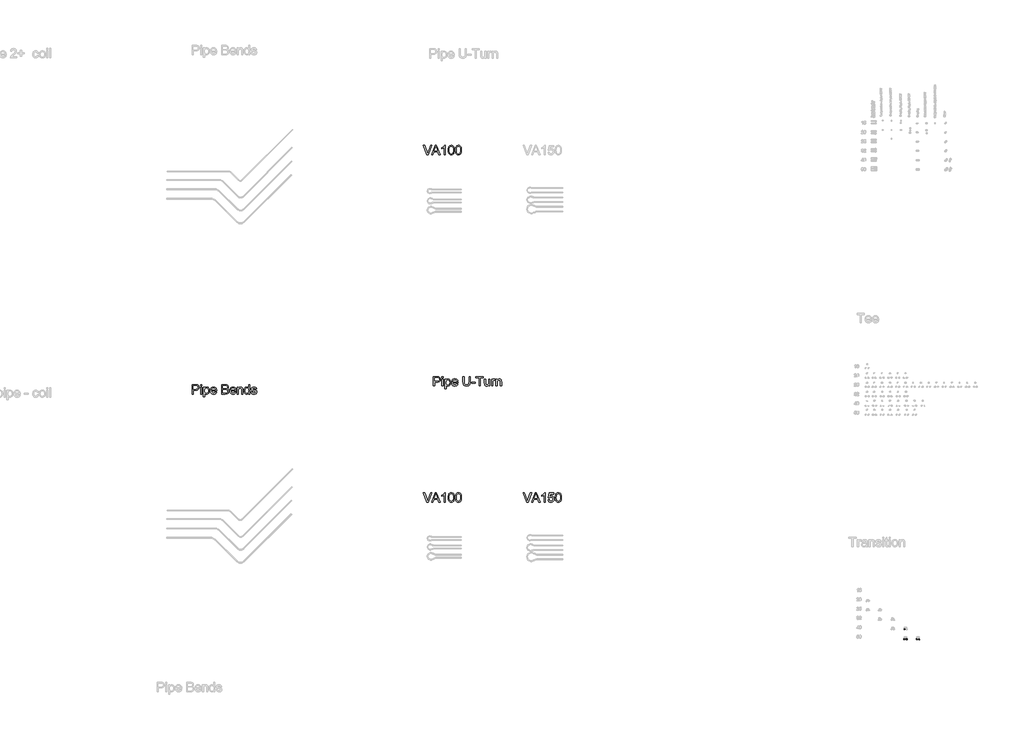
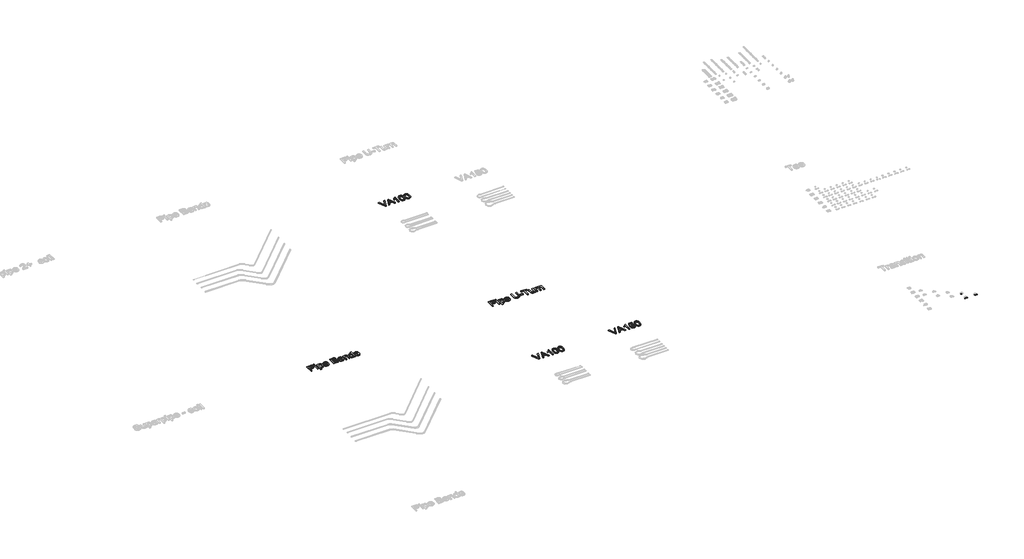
# One storey, part 14 of 26: 10 proxies.
"""IFC4 building model written with IfcOpenShell, lengths in millimetres."""

from ifc_helpers import new_model, si_unit, origin, origin_with_axes, place, context, project, spatial, polyline, outline, extrude, element, save

model = new_model("IFC4")

# Units and contexts
model_context = context("Model", 3, world=origin())
ifc_project = project(units=[si_unit("LENGTHUNIT", "METRE", prefix="MILLI")], contexts=[model_context])

# Site, building, storey
site = spatial("IfcSite", under=ifc_project)
building = spatial("IfcBuilding", under=site)
storey = spatial("IfcBuildingStorey", under=building, Name="Superpipe UFH", Elevation=0.0)

# Proxies
placement = place(None, origin())
element("IfcBuildingElementProxy", 1, Name="300mm Arial", ObjectType="300mm Arial", at=placement, inside=storey, context=model_context, shape_type="SweptSolid", body=[
    extrude(outline(polyline([(11391.0010231, 31190.4014488), (11271.0714926, 31491.7703793), (11311.3913593, 31491.7703793), (11391.6632106, 31274.6464257), (11407.9235948, 31225.7181204), (11423.9632498, 31274.6464257), (11504.4558304, 31491.7703793), (11544.775697, 31491.7703793), (11429.9229381, 31190.4014488), (11391.0010231, 31190.4014488)])), origin_with_axes(), (0.0, 0.0, 1.0), 30.0),
    extrude(outline(polyline([(11544.7021206, 31190.4014488), (11664.9995331, 31491.7703793), (11697.078843, 31491.7703793), (11817.3762555, 31190.4014488), (11777.5714236, 31190.4014488), (11743.0640924, 31284.5792396), (11618.9407073, 31284.5792396), (11584.5069525, 31190.4014488), (11544.7021206, 31190.4014488)]), holes=[polyline([(11632.7730703, 31322.2503559), (11729.3053058, 31322.2503559), (11702.1556146, 31396.3417897), (11681.0391881, 31454.099263), (11662.2772063, 31402.8165128), (11632.7730703, 31322.2503559)])]), origin_with_axes(), (0.0, 0.0, 1.0), 30.0),
    extrude(outline(polyline([(11984.7625633, 31190.4014488), (11947.091447, 31190.4014488), (11947.091447, 31425.2573145), (11911.4068934, 31399.8366687), (11871.7492144, 31380.8171695), (11871.7492144, 31416.4281467), (11901.3361238, 31432.522984), (11926.9683018, 31451.6712418), (11947.1742204, 31472.0335102), (11960.4823516, 31491.7703793), (11984.7625633, 31491.7703793), (11984.7625633, 31190.4014488)])), origin_with_axes(), (0.0, 0.0, 1.0), 30.0),
    extrude(outline(polyline([(12074.2314645, 31338.6578929), (12076.9997765, 31386.8964195), (12085.3047126, 31425.3676791), (12099.0634992, 31454.660283), (12118.1933629, 31475.3628423), (12142.8322595, 31487.668495), (12173.1181448, 31491.7703793), (12196.3314987, 31489.3423581), (12217.1168314, 31482.0582946), (12234.4992557, 31470.2032973), (12247.5038842, 31454.0624748), (12257.3263335, 31433.7737827), (12265.16222, 31409.475177), (12270.2941738, 31378.6190746), (12272.0048251, 31338.6578929), (12269.2641042, 31290.6952778), (12261.0419416, 31252.3159886), (12247.3659285, 31222.9957936), (12228.2636559, 31202.2104609), (12203.569577, 31189.8220347), (12173.1181448, 31185.6925593), (12152.3696003, 31187.485984), (12133.9755005, 31192.8662582), (12117.9358455, 31201.8333818), (12104.2506353, 31214.3873549), (12091.1172481, 31237.0810755), (12081.7362572, 31265.3574053), (12076.1076627, 31299.2163445), (12074.2314645, 31338.6578929)]), holes=[polyline([(12111.9025808, 31338.7314693), (12116.3171647, 31279.4748769), (12121.8353947, 31259.2068782), (12129.5609166, 31245.1790779), (12149.2793915, 31228.8175262), (12173.1181448, 31223.3636756), (12196.9568981, 31228.8359203), (12216.675373, 31245.2526543), (12224.4008949, 31259.3034473), (12229.9191249, 31279.5668474), (12234.3337088, 31338.7314693), (12230.0662777, 31396.6544894), (12224.7319887, 31416.8558095), (12217.2639842, 31431.2170029), (12197.5822975, 31448.3786979), (12172.6766864, 31454.099263), (12149.0954505, 31449.0592796), (12130.1495278, 31433.9393296), (12122.1664885, 31418.3043448), (12116.4643175, 31397.2247065), (12111.9025808, 31338.7314693)])]), origin_with_axes(), (0.0, 0.0, 1.0), 30.0),
    extrude(outline(polyline([(12304.9670519, 31338.6578929), (12307.7353639, 31386.8964195), (12316.0402999, 31425.3676791), (12329.7990865, 31454.660283), (12348.9289503, 31475.3628423), (12373.5678469, 31487.668495), (12403.8537322, 31491.7703793), (12427.0670861, 31489.3423581), (12447.8524188, 31482.0582946), (12465.2348431, 31470.2032973), (12478.2394716, 31454.0624748), (12488.0619209, 31433.7737827), (12495.8978074, 31409.475177), (12501.0297612, 31378.6190746), (12502.7404125, 31338.6578929), (12499.9996916, 31290.6952778), (12491.777529, 31252.3159886), (12478.1015159, 31222.9957936), (12458.9992433, 31202.2104609), (12434.3051643, 31189.8220347), (12403.8537322, 31185.6925593), (12383.1051876, 31187.485984), (12364.7110879, 31192.8662582), (12348.6714329, 31201.8333818), (12334.9862227, 31214.3873549), (12321.8528355, 31237.0810755), (12312.4718446, 31265.3574053), (12306.84325, 31299.2163445), (12304.9670519, 31338.6578929)]), holes=[polyline([(12342.6381682, 31338.7314693), (12347.0527521, 31279.4748769), (12352.570982, 31259.2068782), (12360.2965039, 31245.1790779), (12380.0149789, 31228.8175262), (12403.8537322, 31223.3636756), (12427.6924855, 31228.8359203), (12447.4109604, 31245.2526543), (12455.1364823, 31259.3034473), (12460.6547122, 31279.5668474), (12465.0692962, 31338.7314693), (12460.801865, 31396.6544894), (12455.4675761, 31416.8558095), (12447.9995716, 31431.2170029), (12428.3178849, 31448.3786979), (12403.4122738, 31454.099263), (12379.8310379, 31449.0592796), (12360.8851151, 31433.9393296), (12352.9020758, 31418.3043448), (12347.1999049, 31397.2247065), (12342.6381682, 31338.7314693)])]), origin_with_axes(), (0.0, 0.0, 1.0), 30.0),
])
element("IfcBuildingElementProxy", 2, Name="300mm Arial", ObjectType="300mm Arial", at=placement, inside=storey, context=model_context, shape_type="SweptSolid", body=[
    extrude(outline(polyline([(11391.0010231, 19990.4014488), (11271.0714926, 20291.7703793), (11311.3913593, 20291.7703793), (11391.6632106, 20074.6464257), (11407.9235948, 20025.7181204), (11423.9632498, 20074.6464257), (11504.4558304, 20291.7703793), (11544.775697, 20291.7703793), (11429.9229381, 19990.4014488), (11391.0010231, 19990.4014488)])), origin_with_axes(), (0.0, 0.0, 1.0), 30.0),
    extrude(outline(polyline([(11544.7021206, 19990.4014488), (11664.9995331, 20291.7703793), (11697.078843, 20291.7703793), (11817.3762555, 19990.4014488), (11777.5714236, 19990.4014488), (11743.0640924, 20084.5792396), (11618.9407073, 20084.5792396), (11584.5069525, 19990.4014488), (11544.7021206, 19990.4014488)]), holes=[polyline([(11632.7730703, 20122.2503559), (11729.3053058, 20122.2503559), (11702.1556146, 20196.3417897), (11681.0391881, 20254.099263), (11662.2772063, 20202.8165128), (11632.7730703, 20122.2503559)])]), origin_with_axes(), (0.0, 0.0, 1.0), 30.0),
    extrude(outline(polyline([(11984.7625633, 19990.4014488), (11947.091447, 19990.4014488), (11947.091447, 20225.2573145), (11911.4068934, 20199.8366687), (11871.7492144, 20180.8171695), (11871.7492144, 20216.4281467), (11901.3361238, 20232.522984), (11926.9683018, 20251.6712418), (11947.1742204, 20272.0335102), (11960.4823516, 20291.7703793), (11984.7625633, 20291.7703793), (11984.7625633, 19990.4014488)])), origin_with_axes(), (0.0, 0.0, 1.0), 30.0),
    extrude(outline(polyline([(12074.2314645, 20138.6578929), (12076.9997765, 20186.8964195), (12085.3047126, 20225.3676791), (12099.0634992, 20254.660283), (12118.1933629, 20275.3628423), (12142.8322595, 20287.668495), (12173.1181448, 20291.7703793), (12196.3314987, 20289.3423581), (12217.1168314, 20282.0582946), (12234.4992557, 20270.2032973), (12247.5038842, 20254.0624748), (12257.3263335, 20233.7737827), (12265.16222, 20209.475177), (12270.2941738, 20178.6190746), (12272.0048251, 20138.6578929), (12269.2641042, 20090.6952778), (12261.0419416, 20052.3159886), (12247.3659285, 20022.9957936), (12228.2636559, 20002.2104609), (12203.569577, 19989.8220347), (12173.1181448, 19985.6925593), (12152.3696003, 19987.485984), (12133.9755005, 19992.8662582), (12117.9358455, 20001.8333818), (12104.2506353, 20014.3873549), (12091.1172481, 20037.0810755), (12081.7362572, 20065.3574053), (12076.1076627, 20099.2163445), (12074.2314645, 20138.6578929)]), holes=[polyline([(12111.9025808, 20138.7314693), (12116.3171647, 20079.4748769), (12121.8353947, 20059.2068782), (12129.5609166, 20045.1790779), (12149.2793915, 20028.8175262), (12173.1181448, 20023.3636756), (12196.9568981, 20028.8359203), (12216.675373, 20045.2526543), (12224.4008949, 20059.3034473), (12229.9191249, 20079.5668474), (12234.3337088, 20138.7314693), (12230.0662777, 20196.6544894), (12224.7319887, 20216.8558095), (12217.2639842, 20231.2170029), (12197.5822975, 20248.3786979), (12172.6766864, 20254.099263), (12149.0954505, 20249.0592796), (12130.1495278, 20233.9393296), (12122.1664885, 20218.3043448), (12116.4643175, 20197.2247065), (12111.9025808, 20138.7314693)])]), origin_with_axes(), (0.0, 0.0, 1.0), 30.0),
    extrude(outline(polyline([(12304.9670519, 20138.6578929), (12307.7353639, 20186.8964195), (12316.0402999, 20225.3676791), (12329.7990865, 20254.660283), (12348.9289503, 20275.3628423), (12373.5678469, 20287.668495), (12403.8537322, 20291.7703793), (12427.0670861, 20289.3423581), (12447.8524188, 20282.0582946), (12465.2348431, 20270.2032973), (12478.2394716, 20254.0624748), (12488.0619209, 20233.7737827), (12495.8978074, 20209.475177), (12501.0297612, 20178.6190746), (12502.7404125, 20138.6578929), (12499.9996916, 20090.6952778), (12491.777529, 20052.3159886), (12478.1015159, 20022.9957936), (12458.9992433, 20002.2104609), (12434.3051643, 19989.8220347), (12403.8537322, 19985.6925593), (12383.1051876, 19987.485984), (12364.7110879, 19992.8662582), (12348.6714329, 20001.8333818), (12334.9862227, 20014.3873549), (12321.8528355, 20037.0810755), (12312.4718446, 20065.3574053), (12306.84325, 20099.2163445), (12304.9670519, 20138.6578929)]), holes=[polyline([(12342.6381682, 20138.7314693), (12347.0527521, 20079.4748769), (12352.570982, 20059.2068782), (12360.2965039, 20045.1790779), (12380.0149789, 20028.8175262), (12403.8537322, 20023.3636756), (12427.6924855, 20028.8359203), (12447.4109604, 20045.2526543), (12455.1364823, 20059.3034473), (12460.6547122, 20079.5668474), (12465.0692962, 20138.7314693), (12460.801865, 20196.6544894), (12455.4675761, 20216.8558095), (12447.9995716, 20231.2170029), (12428.3178849, 20248.3786979), (12403.4122738, 20254.099263), (12379.8310379, 20249.0592796), (12360.8851151, 20233.9393296), (12352.9020758, 20218.3043448), (12347.1999049, 20197.2247065), (12342.6381682, 20138.7314693)])]), origin_with_axes(), (0.0, 0.0, 1.0), 30.0),
])
element("IfcBuildingElementProxy", 3, Name="300mm Arial", ObjectType="300mm Arial", at=placement, inside=storey, context=model_context, shape_type="SweptSolid", body=[
    extrude(outline(polyline([(14611.0010231, 19990.4014488), (14491.0714926, 20291.7703793), (14531.3913593, 20291.7703793), (14611.6632106, 20074.6464257), (14627.9235948, 20025.7181204), (14643.9632498, 20074.6464257), (14724.4558304, 20291.7703793), (14764.775697, 20291.7703793), (14649.9229381, 19990.4014488), (14611.0010231, 19990.4014488)])), origin_with_axes(), (0.0, 0.0, 1.0), 30.0),
    extrude(outline(polyline([(14764.7021206, 19990.4014488), (14884.9995331, 20291.7703793), (14917.078843, 20291.7703793), (15037.3762555, 19990.4014488), (14997.5714236, 19990.4014488), (14963.0640924, 20084.5792396), (14838.9407073, 20084.5792396), (14804.5069525, 19990.4014488), (14764.7021206, 19990.4014488)]), holes=[polyline([(14852.7730703, 20122.2503559), (14949.3053058, 20122.2503559), (14922.1556146, 20196.3417897), (14901.0391881, 20254.099263), (14882.2772063, 20202.8165128), (14852.7730703, 20122.2503559)])]), origin_with_axes(), (0.0, 0.0, 1.0), 30.0),
    extrude(outline(polyline([(15204.7625633, 19990.4014488), (15167.091447, 19990.4014488), (15167.091447, 20225.2573145), (15131.4068934, 20199.8366687), (15091.7492144, 20180.8171695), (15091.7492144, 20216.4281467), (15121.3361238, 20232.522984), (15146.9683018, 20251.6712418), (15167.1742204, 20272.0335102), (15180.4823516, 20291.7703793), (15204.7625633, 20291.7703793), (15204.7625633, 19990.4014488)])), origin_with_axes(), (0.0, 0.0, 1.0), 30.0),
    extrude(outline(polyline([(15294.2314645, 20070.452571), (15331.9025808, 20075.1614605), (15338.8187623, 20052.5459149), (15350.8852918, 20036.34991), (15368.0469868, 20026.6102342), (15390.2486652, 20023.3636756), (15417.2512037, 20027.8794271), (15437.4847134, 20041.4266816), (15450.12146, 20062.4419405), (15454.3337088, 20089.3617055), (15450.3881744, 20114.708775), (15438.5515712, 20134.0961561), (15418.7319287, 20146.4018089), (15390.8372764, 20150.5036931), (15372.5627383, 20148.8666182), (15357.7646851, 20143.9553936), (15336.6114703, 20126.9592454), (15298.940354, 20131.668135), (15331.9025808, 20287.0614897), (15477.8781565, 20287.0614897), (15477.8781565, 20249.3903734), (15362.36321, 20249.3903734), (15346.2499786, 20166.3961953), (15373.1605466, 20182.7301559), (15401.3587015, 20188.1748094), (15419.7045167, 20186.4871508), (15436.5558114, 20181.4241748), (15451.9125854, 20172.9858816), (15465.7748388, 20161.172271), (15477.2504578, 20146.7053115), (15485.4473285, 20130.3069716), (15490.365451, 20111.9772512), (15492.0048251, 20091.7161503), (15486.1003191, 20054.045034), (15478.7196866, 20037.2512209), (15468.386801, 20021.8185712), (15452.7334221, 20006.013441), (15434.4680811, 19994.7240623), (15413.5907778, 19987.950435), (15390.1015124, 19985.6925593), (15353.1017808, 19991.4958978), (15337.42311, 19998.7500709), (15323.6252359, 20008.9059132), (15312.1450184, 20021.457587), (15303.4193173, 20035.8992546), (15294.2314645, 20070.452571)])), origin_with_axes(), (0.0, 0.0, 1.0), 30.0),
    extrude(outline(polyline([(15524.9670519, 20138.6578929), (15527.7353639, 20186.8964195), (15536.0402999, 20225.3676791), (15549.7990865, 20254.660283), (15568.9289503, 20275.3628423), (15593.5678469, 20287.668495), (15623.8537322, 20291.7703793), (15647.0670861, 20289.3423581), (15667.8524188, 20282.0582946), (15685.2348431, 20270.2032973), (15698.2394716, 20254.0624748), (15708.0619209, 20233.7737827), (15715.8978074, 20209.475177), (15721.0297612, 20178.6190746), (15722.7404125, 20138.6578929), (15719.9996916, 20090.6952778), (15711.777529, 20052.3159886), (15698.1015159, 20022.9957936), (15678.9992433, 20002.2104609), (15654.3051643, 19989.8220347), (15623.8537322, 19985.6925593), (15603.1051876, 19987.485984), (15584.7110879, 19992.8662582), (15568.6714329, 20001.8333818), (15554.9862227, 20014.3873549), (15541.8528355, 20037.0810755), (15532.4718446, 20065.3574053), (15526.84325, 20099.2163445), (15524.9670519, 20138.6578929)]), holes=[polyline([(15562.6381682, 20138.7314693), (15567.0527521, 20079.4748769), (15572.570982, 20059.2068782), (15580.2965039, 20045.1790779), (15600.0149789, 20028.8175262), (15623.8537322, 20023.3636756), (15647.6924855, 20028.8359203), (15667.4109604, 20045.2526543), (15675.1364823, 20059.3034473), (15680.6547122, 20079.5668474), (15685.0692962, 20138.7314693), (15680.801865, 20196.6544894), (15675.4675761, 20216.8558095), (15667.9995716, 20231.2170029), (15648.3178849, 20248.3786979), (15623.4122738, 20254.099263), (15599.8310379, 20249.0592796), (15580.8851151, 20233.9393296), (15572.9020758, 20218.3043448), (15567.1999049, 20197.2247065), (15562.6381682, 20138.7314693)])]), origin_with_axes(), (0.0, 0.0, 1.0), 30.0),
])
element("IfcBuildingElementProxy", 4, Name="30mm Arial", ObjectType="30mm Arial", at=placement, inside=storey, context=model_context, shape_type="SweptSolid", body=[
    extrude(outline(polyline([(26774.098117, 15877.3204752), (26774.098117, 15884.3838095), (26760.4423374, 15884.3838095), (26760.4423374, 15888.1509211), (26775.0398949, 15906.9864792), (26777.8652287, 15906.9864792), (26777.8652287, 15888.1509211), (26781.6323403, 15888.1509211), (26781.6323403, 15884.3838095), (26777.8652287, 15884.3838095), (26777.8652287, 15877.3204752), (26774.098117, 15877.3204752)]), holes=[polyline([(26774.098117, 15888.1509211), (26774.098117, 15899.7907074), (26765.0776505, 15888.1509211), (26774.098117, 15888.1509211)])]), origin_with_axes(), (0.0, 0.0, 1.0), 2.0),
    extrude(outline(polyline([(26784.928563, 15892.1461196), (26786.0358878, 15900.8170982), (26789.3247528, 15905.8166145), (26794.817231, 15907.4573682), (26799.2170997, 15906.4861597), (26802.2558049, 15903.6865777), (26804.0216385, 15899.227848), (26804.705899, 15892.1461196), (26803.6096107, 15883.5119291), (26800.3317821, 15878.5013764), (26794.817231, 15876.8495862), (26787.93048, 15879.7190658), (26784.928563, 15892.1461196)]), holes=[polyline([(26788.6956746, 15892.1534772), (26790.4615082, 15882.7982381), (26794.817231, 15880.6166978), (26799.1729538, 15882.8055957), (26800.9387874, 15892.1534772), (26799.2318149, 15901.4020306), (26794.7730852, 15903.6902566), (26790.5203693, 15901.6742632), (26788.6956746, 15892.1534772)])]), origin_with_axes(), (0.0, 0.0, 1.0), 2.0),
])
element("IfcBuildingElementProxy", 5, Name="30mm Arial", ObjectType="30mm Arial", at=placement, inside=storey, context=model_context, shape_type="SweptSolid", body=[
    extrude(outline(polyline([(26829.049556, 15568.1802456), (26832.8166676, 15568.6511345), (26834.8952009, 15564.6853666), (26838.7837136, 15563.471356), (26843.3601656, 15565.1415403), (26845.0597804, 15569.2765339), (26843.3748809, 15573.1724042), (26839.0927345, 15574.7138298), (26836.4513417, 15574.301802), (26836.8707272, 15578.0689136), (26841.7488425, 15579.1063408), (26843.6471136, 15582.4319941), (26842.2712349, 15585.3787288), (26838.7248525, 15586.5449148), (26835.1343242, 15585.3676924), (26833.2875566, 15581.8360252), (26829.520445, 15582.3069142), (26832.6032961, 15588.215099), (26838.592415, 15590.3120264), (26843.1357576, 15589.278278), (26846.314258, 15586.4529443), (26847.4142252, 15582.6527233), (26846.3694403, 15579.1799172), (26843.2792316, 15576.6856773), (26847.3847946, 15574.1105033), (26848.8268921, 15569.2103151), (26845.9426972, 15562.470717), (26838.6512761, 15559.7042444), (26832.0441154, 15562.0660468), (26829.049556, 15568.1802456)])), origin_with_axes(), (0.0, 0.0, 1.0), 2.0),
    extrude(outline(polyline([(26871.4295618, 15563.942245), (26871.4295618, 15560.1751333), (26851.6522258, 15560.1751333), (26852.056896, 15562.7723802), (26854.345122, 15566.7712575), (26859.0613692, 15571.1380168), (26865.5655228, 15577.4140836), (26867.1915613, 15581.6815148), (26865.6574933, 15585.1359267), (26861.6512584, 15586.5449148), (26857.4757978, 15585.1690361), (26855.8902264, 15581.3651363), (26852.1231147, 15581.8360252), (26855.0109884, 15588.1415226), (26861.7321925, 15590.3120264), (26868.4754694, 15587.8987205), (26870.9586729, 15581.9096016), (26870.2891277, 15578.3374675), (26868.0634416, 15574.6439322), (26862.6666127, 15569.4825478), (26858.3329628, 15565.8589102), (26856.633348, 15563.942245), (26871.4295618, 15563.942245)])), origin_with_axes(), (0.0, 0.0, 1.0), 2.0),
])
element("IfcBuildingElementProxy", 6, Name="30mm Arial", ObjectType="30mm Arial", at=placement, inside=storey, context=model_context, shape_type="SweptSolid", body=[
    extrude(outline(polyline([(26759.049556, 15568.1802456), (26762.8166676, 15568.6511345), (26764.7149387, 15564.7699795), (26768.6512761, 15563.471356), (26773.3748809, 15565.2776566), (26775.0597804, 15570.071159), (26773.4815667, 15574.5446041), (26768.7101372, 15576.1853578), (26765.4028781, 15575.5305278), (26763.2875566, 15573.830913), (26759.520445, 15574.301802), (26762.8166676, 15589.8411374), (26777.4142252, 15589.8411374), (26777.4142252, 15586.0740258), (26765.8627306, 15586.0740258), (26764.2514074, 15577.774608), (26769.7622797, 15579.9524694), (26776.2038934, 15577.2522156), (26778.8268921, 15570.3066035), (26776.4650897, 15563.3168456), (26768.6365608, 15559.7042444), (26761.9889331, 15562.0255798), (26759.049556, 15568.1802456)])), origin_with_axes(), (0.0, 0.0, 1.0), 2.0),
    extrude(outline(polyline([(26782.1231147, 15575.0007778), (26783.2304395, 15583.6717564), (26786.5193046, 15588.6712727), (26792.0117828, 15590.3120264), (26796.4116514, 15589.3408179), (26799.4503567, 15586.5412359), (26801.2161903, 15582.0825062), (26801.9004508, 15575.0007778), (26800.8041625, 15566.3665873), (26797.5263339, 15561.3560346), (26792.0117828, 15559.7042444), (26785.1250318, 15562.573724), (26782.1231147, 15575.0007778)]), holes=[polyline([(26785.8902264, 15575.0081354), (26787.6560599, 15565.6528963), (26792.0117828, 15563.471356), (26796.3675056, 15565.6602539), (26798.1333392, 15575.0081354), (26796.4263667, 15584.2566888), (26791.9676369, 15586.5449148), (26787.7149211, 15584.5289214), (26785.8902264, 15575.0081354)])]), origin_with_axes(), (0.0, 0.0, 1.0), 2.0),
])
element("IfcBuildingElementProxy", 7, Name="30mm Arial", ObjectType="30mm Arial", at=placement, inside=storey, context=model_context, shape_type="SweptSolid", body=[
    extrude(outline(polyline([(27251.2926688, 15560.1751333), (27251.2926688, 15567.2384677), (27237.6368891, 15567.2384677), (27237.6368891, 15571.0055793), (27252.2344467, 15589.8411374), (27255.0597804, 15589.8411374), (27255.0597804, 15571.0055793), (27258.8268921, 15571.0055793), (27258.8268921, 15567.2384677), (27255.0597804, 15567.2384677), (27255.0597804, 15560.1751333), (27251.2926688, 15560.1751333)]), holes=[polyline([(27251.2926688, 15571.0055793), (27251.2926688, 15582.6453656), (27242.2722023, 15571.0055793), (27251.2926688, 15571.0055793)])]), origin_with_axes(), (0.0, 0.0, 1.0), 2.0),
    extrude(outline(polyline([(27262.1231147, 15575.0007778), (27263.2304395, 15583.6717564), (27266.5193046, 15588.6712727), (27272.0117828, 15590.3120264), (27276.4116514, 15589.3408179), (27279.4503567, 15586.5412359), (27281.2161903, 15582.0825062), (27281.9004508, 15575.0007778), (27280.8041625, 15566.3665873), (27277.5263339, 15561.3560346), (27272.0117828, 15559.7042444), (27265.1250318, 15562.573724), (27262.1231147, 15575.0007778)]), holes=[polyline([(27265.8902264, 15575.0081354), (27267.6560599, 15565.6528963), (27272.0117828, 15563.471356), (27276.3675056, 15565.6602539), (27278.1333392, 15575.0081354), (27276.4263667, 15584.2566888), (27271.9676369, 15586.5449148), (27267.7149211, 15584.5289214), (27265.8902264, 15575.0081354)])]), origin_with_axes(), (0.0, 0.0, 1.0), 2.0),
])
element("IfcBuildingElementProxy", 8, Name="30mm Arial", ObjectType="30mm Arial", at=placement, inside=storey, context=model_context, shape_type="SweptSolid", body=[
    extrude(outline(polyline([(27169.049556, 15568.1802456), (27172.8166676, 15568.6511345), (27174.7149387, 15564.7699795), (27178.6512761, 15563.471356), (27183.3748809, 15565.2776566), (27185.0597804, 15570.071159), (27183.4815667, 15574.5446041), (27178.7101372, 15576.1853578), (27175.4028781, 15575.5305278), (27173.2875566, 15573.830913), (27169.520445, 15574.301802), (27172.8166676, 15589.8411374), (27187.4142252, 15589.8411374), (27187.4142252, 15586.0740258), (27175.8627306, 15586.0740258), (27174.2514074, 15577.774608), (27179.7622797, 15579.9524694), (27186.2038934, 15577.2522156), (27188.8268921, 15570.3066035), (27186.4650897, 15563.3168456), (27178.6365608, 15559.7042444), (27171.9889331, 15562.0255798), (27169.049556, 15568.1802456)])), origin_with_axes(), (0.0, 0.0, 1.0), 2.0),
    extrude(outline(polyline([(27192.1231147, 15575.0007778), (27193.2304395, 15583.6717564), (27196.5193046, 15588.6712727), (27202.0117828, 15590.3120264), (27206.4116514, 15589.3408179), (27209.4503567, 15586.5412359), (27211.2161903, 15582.0825062), (27211.9004508, 15575.0007778), (27210.8041625, 15566.3665873), (27207.5263339, 15561.3560346), (27202.0117828, 15559.7042444), (27195.1250318, 15562.573724), (27192.1231147, 15575.0007778)]), holes=[polyline([(27195.8902264, 15575.0081354), (27197.6560599, 15565.6528963), (27202.0117828, 15563.471356), (27206.3675056, 15565.6602539), (27208.1333392, 15575.0081354), (27206.4263667, 15584.2566888), (27201.9676369, 15586.5449148), (27197.7149211, 15584.5289214), (27195.8902264, 15575.0081354)])]), origin_with_axes(), (0.0, 0.0, 1.0), 2.0),
])
element("IfcBuildingElementProxy", 9, Name="600mm Arial", ObjectType="600mm Arial", at=placement, inside=storey, context=model_context, shape_type="SweptSolid", body=[
    extrude(outline(polyline([(3818.0197435, 23474.8296778), (3818.0197435, 23776.1986083), (3929.7087172, 23776.1986083), (3974.7374734, 23773.3291287), (3994.8146333, 23767.9672486), (4011.3417319, 23759.2392483), (4024.6498631, 23746.7496546), (4035.0701206, 23730.1029943), (4041.8023611, 23710.4672928), (4044.0464413, 23689.0105754), (4042.5312273, 23670.5107096), (4037.9855854, 23653.4915688), (4030.4095156, 23637.953153), (4019.8030178, 23623.8954623), (4005.2417886, 23612.2428001), (3985.8015244, 23603.9194699), (3961.4822253, 23598.9254719), (3932.2838912, 23597.2608058), (3855.6908598, 23597.2608058), (3855.6908598, 23474.8296778), (3818.0197435, 23474.8296778)]), holes=[polyline([(3855.6908598, 23634.9319221), (3934.4911831, 23634.9319221), (3967.8948683, 23638.3900129), (3989.967788, 23648.7642852), (4002.2734407, 23665.4109454), (4006.375325, 23687.6862002), (4003.9565009, 23704.608772), (3996.7000285, 23718.8825934), (3985.5072188, 23729.6247477), (3971.2793827, 23735.952318), (3933.6082663, 23738.527492), (3855.6908598, 23738.527492), (3855.6908598, 23634.9319221)])]), origin_with_axes(), (0.0, 0.0, 1.0), 30.0),
    extrude(outline(polyline([(4091.1353367, 23474.8296778), (4091.1353367, 23696.1474861), (4128.806453, 23696.1474861), (4128.806453, 23474.8296778), (4091.1353367, 23474.8296778)])), origin_with_axes(), (0.0, 0.0, 1.0), 30.0),
    extrude(outline(polyline([(4091.1353367, 23738.527492), (4091.1353367, 23776.1986083), (4128.806453, 23776.1986083), (4128.806453, 23738.527492), (4091.1353367, 23738.527492)])), origin_with_axes(), (0.0, 0.0, 1.0), 30.0),
    extrude(outline(polyline([(4185.3131274, 23390.0696661), (4185.3131274, 23696.1474861), (4222.9842438, 23696.1474861), (4222.9842438, 23659.2121338), (4235.2715024, 23677.4314896), (4249.030289, 23690.4453152), (4265.069944, 23698.2536106), (4284.1998078, 23700.8563757), (4309.6756359, 23697.2143439), (4331.9508907, 23686.2882487), (4350.0874731, 23668.7402775), (4363.1472839, 23645.232618), (4371.0383527, 23617.4759215), (4373.668709, 23587.1808392), (4370.6980619, 23554.9635734), (4361.7861205, 23526.1492162), (4347.2179935, 23502.2000983), (4327.2787894, 23484.5785507), (4304.0562384, 23473.7352289), (4279.638071, 23470.1207883), (4262.3200261, 23472.5396124), (4246.8597852, 23479.7960848), (4233.6252305, 23490.7497712), (4222.9842438, 23504.2602375), (4222.9842438, 23390.0696661), (4185.3131274, 23390.0696661)]), holes=[polyline([(4222.9842438, 23583.7227484), (4227.0585368, 23549.9511813), (4239.2814161, 23526.3331572), (4257.316831, 23512.4272177), (4278.8287306, 23507.7919046), (4300.6901182, 23512.5927646), (4319.1853855, 23526.9953448), (4331.7945409, 23551.4778915), (4335.9975927, 23586.5186516), (4331.8957084, 23620.1062777), (4319.5900557, 23644.0553956), (4301.582232, 23658.4027934), (4280.373835, 23663.1852594), (4259.0826645, 23658.0992908), (4240.3850621, 23642.841385), (4227.3344483, 23617.8897887), (4222.9842438, 23583.7227484)])]), origin_with_axes(), (0.0, 0.0, 1.0), 30.0),
    extrude(outline(polyline([(4571.0006112, 23540.7541314), (4607.9359635, 23536.0452418), (4594.6278323, 23508.2149689), (4573.3918442, 23487.4112421), (4544.7062456, 23474.4434017), (4509.0492832, 23470.1207883), (4485.6749809, 23471.9854902), (4464.8482615, 23477.5795958), (4446.5691248, 23486.9031051), (4430.837571, 23499.9560181), (4418.1870289, 23516.3750514), (4409.1509274, 23535.7969215), (4403.7292665, 23558.2216284), (4401.9220462, 23583.649172), (4403.7476606, 23609.9389391), (4409.2245038, 23633.1109063), (4418.3525758, 23653.1650735), (4431.1318766, 23670.1014409), (4446.8220437, 23683.5567249), (4464.6827146, 23693.167642), (4484.7138892, 23698.9341922), (4506.9155676, 23700.8563757), (4528.4021754, 23698.9387908), (4547.8332425, 23693.1860361), (4565.208769, 23683.5981116), (4580.5287549, 23670.1750173), (4593.0344434, 23653.2754381), (4601.9670781, 23633.2580591), (4607.326659, 23610.1228801), (4609.1131859, 23583.8699012), (4608.8924567, 23573.7163581), (4439.5931625, 23573.7163581), (4446.1138709, 23545.5182032), (4461.261412, 23524.7880528), (4483.1227996, 23512.0409416), (4509.7850472, 23507.7919046), (4529.8346159, 23509.7600733), (4546.7203995, 23515.6645793), (4560.4423979, 23525.8733047), (4571.0006112, 23540.7541314)]), holes=[polyline([(4439.5931625, 23611.3874744), (4571.4420696, 23611.3874744), (4566.346904, 23631.2898904), (4556.3589078, 23645.5269236), (4534.3963527, 23658.7706754), (4506.7684148, 23663.1852594), (4481.3753601, 23659.6627893), (4460.3784952, 23649.095379), (4445.7827771, 23632.6234626), (4439.5931625, 23611.3874744)])]), origin_with_axes(), (0.0, 0.0, 1.0), 30.0),
    extrude(outline(polyline([(4769.2154302, 23474.8296778), (4769.2154302, 23776.1986083), (4884.2153419, 23776.1986083), (4915.8439964, 23773.9821193), (4940.5380753, 23767.3326522), (4959.465604, 23756.0846602), (4973.7946077, 23740.0725964), (4982.8169136, 23721.2370382), (4985.824349, 23701.5185633), (4983.2951602, 23683.3727839), (4975.7075941, 23666.3122563), (4963.0064682, 23651.3854444), (4945.1366003, 23639.6408117), (4966.4829531, 23628.4939872), (4982.2558936, 23611.5346272), (4991.9955694, 23589.8847718), (4995.242128, 23564.6664611), (4993.025639, 23543.6512021), (4986.3761719, 23524.1626534), (4976.4525551, 23507.5895695), (4964.4136168, 23495.320705), (4949.6707459, 23486.4363548), (4931.6353311, 23480.016814), (4883.3324251, 23474.8296778), (4769.2154302, 23474.8296778)]), holes=[polyline([(4806.8865465, 23512.5007941), (4884.1417655, 23512.5007941), (4912.1007971, 23513.9723221), (4935.7556094, 23522.1760906), (4951.4273824, 23538.9147214), (4956.0351044, 23550.7421275), (4957.5710117, 23564.2985791), (4955.7683899, 23580.0439285), (4950.3605246, 23593.5819859), (4940.9151544, 23604.1677903), (4927.0000179, 23611.0563807), (4907.29074, 23614.8363682), (4880.4629455, 23616.096364), (4806.8865465, 23616.096364), (4806.8865465, 23512.5007941)]), polyline([(4806.8865465, 23653.7674803), (4875.6804796, 23653.7674803), (4915.8531935, 23657.0048418), (4929.9154827, 23662.5874511), (4940.0230406, 23670.9475695), (4946.1206846, 23681.9564382), (4948.1532326, 23695.4852985), (4946.2586404, 23708.6186858), (4940.5748635, 23720.0598158), (4931.3594196, 23728.9901513), (4918.8698258, 23734.5911546), (4870.4565553, 23738.527492), (4806.8865465, 23738.527492), (4806.8865465, 23653.7674803)])]), origin_with_axes(), (0.0, 0.0, 1.0), 30.0),
    extrude(outline(polyline([(5197.2829198, 23540.7541314), (5234.2182721, 23536.0452418), (5220.9101409, 23508.2149689), (5199.6741527, 23487.4112421), (5170.9885542, 23474.4434017), (5135.3315918, 23470.1207883), (5111.9572895, 23471.9854902), (5091.1305701, 23477.5795958), (5072.8514334, 23486.9031051), (5057.1198796, 23499.9560181), (5044.4693375, 23516.3750514), (5035.433236, 23535.7969215), (5030.0115751, 23558.2216284), (5028.2043548, 23583.649172), (5030.0299692, 23609.9389391), (5035.5068124, 23633.1109063), (5044.6348844, 23653.1650735), (5057.4141852, 23670.1014409), (5073.1043523, 23683.5567249), (5090.9650232, 23693.167642), (5110.9961978, 23698.9341922), (5133.1978762, 23700.8563757), (5154.684484, 23698.9387908), (5174.1155511, 23693.1860361), (5191.4910776, 23683.5981116), (5206.8110635, 23670.1750173), (5219.316752, 23653.2754381), (5228.2493867, 23633.2580591), (5233.6089675, 23610.1228801), (5235.3954945, 23583.8699012), (5235.1747653, 23573.7163581), (5065.8754711, 23573.7163581), (5072.3961795, 23545.5182032), (5087.5437206, 23524.7880528), (5109.4051082, 23512.0409416), (5136.0673558, 23507.7919046), (5156.1169245, 23509.7600733), (5173.0027081, 23515.6645793), (5186.7247065, 23525.8733047), (5197.2829198, 23540.7541314)]), holes=[polyline([(5065.8754711, 23611.3874744), (5197.7243782, 23611.3874744), (5192.6292125, 23631.2898904), (5182.6412164, 23645.5269236), (5160.6786613, 23658.7706754), (5133.0507234, 23663.1852594), (5107.6576687, 23659.6627893), (5086.6608038, 23649.095379), (5072.0650857, 23632.6234626), (5065.8754711, 23611.3874744)])]), origin_with_axes(), (0.0, 0.0, 1.0), 30.0),
    extrude(outline(polyline([(5273.0666108, 23474.8296778), (5273.0666108, 23696.1474861), (5310.7377271, 23696.1474861), (5310.7377271, 23665.2453985), (5323.8251291, 23680.825201), (5339.5428873, 23691.9536314), (5357.8910018, 23698.6306896), (5378.8694726, 23700.8563757), (5397.4383163, 23699.0629509), (5414.4436615, 23693.6826768), (5428.6255124, 23685.3869378), (5438.7238732, 23674.8471186), (5450.0178505, 23647.1456044), (5452.0044132, 23610.7252869), (5452.0044132, 23474.8296778), (5414.3332969, 23474.8296778), (5414.3332969, 23605.6485153), (5409.9922894, 23638.9786241), (5403.9866158, 23648.9022409), (5394.6516102, 23656.6001717), (5382.6862483, 23661.5389874), (5368.7895059, 23663.1852594), (5346.7257833, 23659.4880453), (5327.9178163, 23648.3964032), (5320.4015273, 23639.3419076), (5315.0327494, 23626.9672769), (5310.7377271, 23592.2576107), (5310.7377271, 23474.8296778), (5273.0666108, 23474.8296778)])), origin_with_axes(), (0.0, 0.0, 1.0), 30.0),
    extrude(outline(polyline([(5640.3599948, 23474.8296778), (5640.3599948, 23510.3670786), (5629.0890101, 23492.7593266), (5615.4359896, 23480.1823609), (5599.4009331, 23472.6361814), (5580.9838407, 23470.1207883), (5556.6300527, 23473.7628201), (5534.3364038, 23484.6889153), (5515.4640574, 23502.1357189), (5501.374177, 23525.3398758), (5492.6001914, 23553.3632868), (5489.6755295, 23585.2678528), (5492.3702652, 23616.7769457), (5500.454472, 23645.232618), (5513.918953, 23669.016189), (5532.7545112, 23686.5089779), (5555.5356037, 23697.2695262), (5580.836688, 23700.8563757), (5599.2675759, 23698.2903988), (5615.5647483, 23690.592468), (5629.3787172, 23678.792653), (5640.3599948, 23663.9210234), (5640.3599948, 23776.1986083), (5678.0311111, 23776.1986083), (5678.0311111, 23474.8296778), (5640.3599948, 23474.8296778)]), holes=[polyline([(5527.3466459, 23585.4150056), (5531.5956829, 23551.3399358), (5544.342794, 23527.1057094), (5562.8656525, 23512.6203558), (5584.4419315, 23507.7919046), (5606.0090135, 23512.3996266), (5624.0628224, 23526.2227926), (5636.2857017, 23549.5189199), (5640.3599948, 23582.545526), (5636.2121253, 23618.6531439), (5623.7685168, 23643.6875136), (5605.2548554, 23658.3108229), (5582.8968271, 23663.1852594), (5561.0998189, 23658.503961), (5543.239148, 23644.4600658), (5531.3197714, 23620.336204), (5527.3466459, 23585.4150056)])]), origin_with_axes(), (0.0, 0.0, 1.0), 30.0),
    extrude(outline(polyline([(5720.4111169, 23540.7541314), (5758.0822332, 23545.4630209), (5764.0235274, 23529.3497895), (5775.5198398, 23517.5039893), (5792.6447467, 23510.2199258), (5815.4718245, 23507.7919046), (5838.0229908, 23510.0175907), (5853.8787048, 23516.6946489), (5863.2596956, 23526.3699454), (5866.3866926, 23537.5903462), (5863.2413015, 23547.1920663), (5853.8051284, 23554.512918), (5815.0303661, 23565.2550723), (5758.3029624, 23583.6859602), (5743.9463676, 23592.9473894), (5733.5445041, 23605.2070569), (5727.2261309, 23619.6832134), (5725.1200065, 23635.5941097), (5726.8122636, 23650.1898279), (5731.8890352, 23663.663506), (5739.8904686, 23675.4817151), (5750.3567113, 23685.1110263), (5774.3058292, 23696.2578507), (5806.716233, 23700.8563757), (5831.235568, 23699.0077686), (5852.5543296, 23693.4619476), (5869.6976306, 23684.7615384), (5881.6905836, 23673.449167), (5889.6368347, 23658.687902), (5894.6400298, 23639.6408117), (5856.9689135, 23634.9319221), (5852.2140387, 23646.7869194), (5842.8054567, 23655.7172549), (5828.651197, 23661.3182582), (5809.659289, 23663.1852594), (5788.0278276, 23661.4010317), (5773.6068534, 23656.0483487), (5765.4950554, 23648.3228268), (5762.7911228, 23639.4200825), (5767.2792831, 23628.457199), (5781.3323753, 23620.1430659), (5813.7795673, 23612.1232384), (5869.0722312, 23594.3913263), (5883.6771464, 23585.9116463), (5894.7503944, 23574.3049693), (5901.7309553, 23559.5345072), (5904.0578089, 23541.5634718), (5901.3262851, 23522.985431), (5893.1317137, 23505.5110362), (5879.7867943, 23490.5106479), (5861.6042267, 23479.3546264), (5839.6416716, 23472.4292478), (5814.9567897, 23470.1207883), (5776.9729737, 23474.5721604), (5749.2530653, 23487.9262769), (5730.748601, 23510.0359848), (5720.4111169, 23540.7541314)])), origin_with_axes(), (0.0, 0.0, 1.0), 30.0),
])
element("IfcBuildingElementProxy", 10, Name="600mm Arial", ObjectType="600mm Arial", at=placement, inside=storey, context=model_context, shape_type="SweptSolid", body=[
    extrude(outline(polyline([(11599.8581577, 23735.4437969), (11599.8581577, 24036.8127273), (11711.5471315, 24036.8127273), (11756.5758877, 24033.9432477), (11776.6530476, 24028.5813677), (11793.1801462, 24019.8533673), (11806.4882774, 24007.3637736), (11816.9085349, 23990.7171133), (11823.6407754, 23971.0814118), (11825.8848556, 23949.6246944), (11824.3696416, 23931.1248286), (11819.8239997, 23914.1056878), (11812.2479299, 23898.567272), (11801.6414321, 23884.5095813), (11787.0802029, 23872.8569191), (11767.6399387, 23864.533589), (11743.3206396, 23859.5395909), (11714.1223054, 23857.8749249), (11637.5292741, 23857.8749249), (11637.5292741, 23735.4437969), (11599.8581577, 23735.4437969)]), holes=[polyline([(11637.5292741, 23895.5460412), (11716.3295974, 23895.5460412), (11749.7332826, 23899.0041319), (11771.8062023, 23909.3784042), (11784.111855, 23926.0250645), (11788.2137393, 23948.3003193), (11785.7949152, 23965.222891), (11778.5384428, 23979.4967125), (11767.3456331, 23990.2388667), (11753.1177969, 23996.566437), (11715.4466806, 23999.141611), (11637.5292741, 23999.141611), (11637.5292741, 23895.5460412)])]), origin_with_axes(), (0.0, 0.0, 1.0), 30.0),
    extrude(outline(polyline([(11872.973751, 23735.4437969), (11872.973751, 23956.7616052), (11910.6448673, 23956.7616052), (11910.6448673, 23735.4437969), (11872.973751, 23735.4437969)])), origin_with_axes(), (0.0, 0.0, 1.0), 30.0),
    extrude(outline(polyline([(11872.973751, 23999.141611), (11872.973751, 24036.8127273), (11910.6448673, 24036.8127273), (11910.6448673, 23999.141611), (11872.973751, 23999.141611)])), origin_with_axes(), (0.0, 0.0, 1.0), 30.0),
    extrude(outline(polyline([(11967.1515417, 23650.6837852), (11967.1515417, 23956.7616052), (12004.822658, 23956.7616052), (12004.822658, 23919.8262528), (12017.1099167, 23938.0456087), (12030.8687033, 23951.0594342), (12046.9083583, 23958.8677296), (12066.038222, 23961.4704947), (12091.5140502, 23957.8284629), (12113.789305, 23946.9023677), (12131.9258874, 23929.3543965), (12144.9856982, 23905.846737), (12152.876767, 23878.0900405), (12155.5071233, 23847.7949582), (12152.5364762, 23815.5776925), (12143.6245348, 23786.7633352), (12129.0564078, 23762.8142173), (12109.1172037, 23745.1926697), (12085.8946527, 23734.3493479), (12061.4764853, 23730.7349073), (12044.1584404, 23733.1537314), (12028.6981995, 23740.4102038), (12015.4636447, 23751.3638902), (12004.822658, 23764.8743565), (12004.822658, 23650.6837852), (11967.1515417, 23650.6837852)]), holes=[polyline([(12004.822658, 23844.3368674), (12008.8969511, 23810.5653003), (12021.1198304, 23786.9472762), (12039.1552452, 23773.0413368), (12060.6671449, 23768.4060236), (12082.5285325, 23773.2068837), (12101.0237998, 23787.6094638), (12113.6329552, 23812.0920106), (12117.836007, 23847.1327706), (12113.7341227, 23880.7203968), (12101.42847, 23904.6695146), (12083.4206463, 23919.0169125), (12062.2122493, 23923.7993784), (12040.9210788, 23918.7134098), (12022.2234764, 23903.4555041), (12009.1728626, 23878.5039077), (12004.822658, 23844.3368674)])]), origin_with_axes(), (0.0, 0.0, 1.0), 30.0),
    extrude(outline(polyline([(12352.8390255, 23801.3682504), (12389.7743778, 23796.6593609), (12376.4662466, 23768.8290879), (12355.2302584, 23748.0253611), (12326.5446599, 23735.0575208), (12290.8876975, 23730.7349073), (12267.5133952, 23732.5996092), (12246.6866758, 23738.1937148), (12228.4075391, 23747.5172241), (12212.6759853, 23760.5701371), (12200.0254432, 23776.9891704), (12190.9893417, 23796.4110405), (12185.5676808, 23818.8357474), (12183.7604605, 23844.263291), (12185.5860749, 23870.5530581), (12191.0629181, 23893.7250253), (12200.1909901, 23913.7791925), (12212.9702909, 23930.7155599), (12228.660458, 23944.1708439), (12246.5211289, 23953.781761), (12266.5523035, 23959.5483113), (12288.7539819, 23961.4704947), (12310.2405897, 23959.5529098), (12329.6716568, 23953.8001551), (12347.0471833, 23944.2122306), (12362.3671692, 23930.7891363), (12374.8728577, 23913.8895571), (12383.8054924, 23893.8721781), (12389.1650732, 23870.7369991), (12390.9516002, 23844.4840202), (12390.730871, 23834.3304772), (12221.4315768, 23834.3304772), (12227.9522852, 23806.1323222), (12243.0998263, 23785.4021718), (12264.9612139, 23772.6550607), (12291.6234615, 23768.4060236), (12311.6730302, 23770.3741923), (12328.5588138, 23776.2786983), (12342.2808122, 23786.4874237), (12352.8390255, 23801.3682504)]), holes=[polyline([(12221.4315768, 23872.0015935), (12353.2804839, 23872.0015935), (12348.1853182, 23891.9040094), (12338.1973221, 23906.1410426), (12316.234767, 23919.3847944), (12288.6068291, 23923.7993784), (12263.2137744, 23920.2769083), (12242.2169095, 23909.709498), (12227.6211914, 23893.2375816), (12221.4315768, 23872.0015935)])]), origin_with_axes(), (0.0, 0.0, 1.0), 30.0),
    extrude(outline(polyline([(12748.8272051, 24036.8127273), (12786.4983214, 24036.8127273), (12786.4983214, 23862.9516964), (12783.9415415, 23822.2363566), (12776.2712019, 23790.8836135), (12761.9421982, 23766.6953723), (12739.409426, 23747.4735381), (12708.617703, 23734.919565), (12669.5118469, 23730.7349073), (12631.2613165, 23734.3769391), (12600.6811256, 23745.3030343), (12577.7620773, 23763.136114), (12562.4949745, 23787.4990992), (12553.914127, 23820.1762174), (12551.0538445, 23862.9516964), (12551.0538445, 24036.8127273), (12588.7249608, 24036.8127273), (12588.7249608, 23864.2760716), (12590.5827649, 23830.421731), (12596.1561771, 23806.8496921), (12606.2545379, 23790.5249286), (12621.6871876, 23778.4124139), (12641.8103327, 23770.9076212), (12665.9801798, 23768.4060236), (12704.2950896, 23773.3540365), (12718.6378889, 23779.5390525), (12729.7709177, 23788.198075), (12738.1080434, 23800.374969), (12744.0631332, 23817.1135998), (12748.8272051, 23864.2760716), (12748.8272051, 24036.8127273)])), origin_with_axes(), (0.0, 0.0, 1.0), 30.0),
    extrude(outline(polyline([(12828.8783272, 23824.9126981), (12828.8783272, 23862.5838144), (12946.6005657, 23862.5838144), (12946.6005657, 23824.9126981), (12828.8783272, 23824.9126981)])), origin_with_axes(), (0.0, 0.0, 1.0), 30.0),
    extrude(outline(polyline([(13069.0316937, 23735.4437969), (13069.0316937, 23999.141611), (12970.1450134, 23999.141611), (12970.1450134, 24036.8127273), (13205.5894903, 24036.8127273), (13205.5894903, 23999.141611), (13106.70281, 23999.141611), (13106.70281, 23735.4437969), (13069.0316937, 23735.4437969)])), origin_with_axes(), (0.0, 0.0, 1.0), 30.0),
    extrude(outline(polyline([(13384.5272927, 23735.4437969), (13384.5272927, 23773.4827952), (13370.8972648, 23754.7805942), (13355.0231567, 23741.4218793), (13336.9049685, 23733.4066503), (13316.5427, 23730.7349073), (13298.1945855, 23732.6111055), (13281.1156639, 23738.2397), (13266.7866602, 23746.7009859), (13256.6882994, 23757.0752582), (13245.4678986, 23784.8135606), (13243.2606066, 23819.8359266), (13243.2606066, 23956.7616052), (13280.9317229, 23956.7616052), (13280.9317229, 23837.5678387), (13283.2125913, 23799.1609584), (13288.7032301, 23786.3494679), (13298.1118121, 23776.6097921), (13310.812938, 23770.4569657), (13326.1812083, 23768.4060236), (13342.4323955, 23770.502951), (13357.6351189, 23776.7937331), (13370.1706979, 23786.6989558), (13378.4204516, 23799.639205), (13383.0005825, 23817.3619201), (13384.5272927, 23841.6145407), (13384.5272927, 23956.7616052), (13422.1984091, 23956.7616052), (13422.1984091, 23735.4437969), (13384.5272927, 23735.4437969)])), origin_with_axes(), (0.0, 0.0, 1.0), 30.0),
    extrude(outline(polyline([(13473.996194, 23735.4437969), (13473.996194, 23956.7616052), (13506.9584207, 23956.7616052), (13506.9584207, 23924.0201076), (13519.1353148, 23943.0028185), (13530.3557156, 23954.1864312), (13541.6129047, 23959.6494788), (13553.9001633, 23961.4704947), (13572.6621451, 23958.5642269), (13591.7184324, 23949.8454236), (13579.1368682, 23916.0738565), (13565.8931164, 23921.8679979), (13552.6493645, 23923.7993784), (13541.4013725, 23921.9415743), (13531.348997, 23916.3681621), (13523.228002, 23907.502206), (13517.7741514, 23895.7667704), (13513.1940206, 23874.7239202), (13511.6673103, 23851.7680837), (13511.6673103, 23735.4437969), (13473.996194, 23735.4437969)])), origin_with_axes(), (0.0, 0.0, 1.0), 30.0),
    extrude(outline(polyline([(13615.2628801, 23735.4437969), (13615.2628801, 23956.7616052), (13652.9339964, 23956.7616052), (13652.9339964, 23925.8595176), (13666.0213984, 23941.4393201), (13681.7391567, 23952.5677504), (13700.0872712, 23959.2448086), (13721.0657419, 23961.4704947), (13739.6345856, 23959.67707), (13756.6399309, 23954.2967958), (13770.8217818, 23946.0010568), (13780.9201426, 23935.4612376), (13792.2141198, 23907.7597234), (13794.2006826, 23871.3394059), (13794.2006826, 23735.4437969), (13756.5295663, 23735.4437969), (13756.5295663, 23866.2626343), (13752.1885587, 23899.5927431), (13746.1828852, 23909.5163599), (13736.8478795, 23917.2142907), (13724.8825176, 23922.1531065), (13710.9857753, 23923.7993784), (13688.9220526, 23920.1021643), (13670.1140856, 23909.0105222), (13662.5977966, 23899.9560266), (13657.2290187, 23887.581396), (13652.9339964, 23852.8717297), (13652.9339964, 23735.4437969), (13615.2628801, 23735.4437969)])), origin_with_axes(), (0.0, 0.0, 1.0), 30.0),
])

save(model, "model.ifc")
